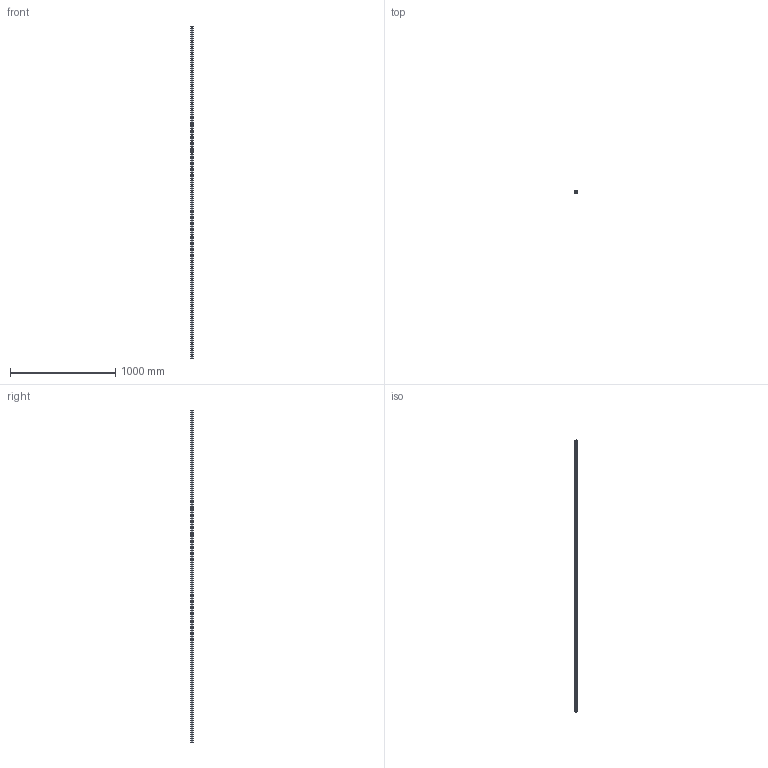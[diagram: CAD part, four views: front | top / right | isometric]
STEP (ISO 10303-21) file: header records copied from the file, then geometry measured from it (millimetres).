
FILE_DESCRIPTION (( 'STEP AP203' ), '1' );
FILE_NAME ('L1016.BRF25-3160.step', '2019-06-13T08:45:32', ( '' ), ( '' ), 'SwSTEP 2.0', 'SolidWorks 2017', '' );
FILE_SCHEMA (( 'CONFIG_CONTROL_DESIGN' ));
Length unit declared in the file: millimetre
Products named in the file (1): L1016.BRF25-3160
Bounding box: 23 x 19.2 x 3160 mm (x, y, z)
Volume: 1206510.5 mm3; surface area: 290735.8 mm2
Topology: 1 solids, 1 shells, 397 faces, 920 edges, 525 vertices
Faces by surface type: cylinder 216, cone 106, plane 75
Entity records: 10653 total; most frequent: DIRECTION 2042, CARTESIAN_POINT 1737, ORIENTED_EDGE 1628, AXIS2_PLACEMENT_3D 830, EDGE_CURVE 814, VERTEX_POINT 525, EDGE_LOOP 503, CIRCLE 432
